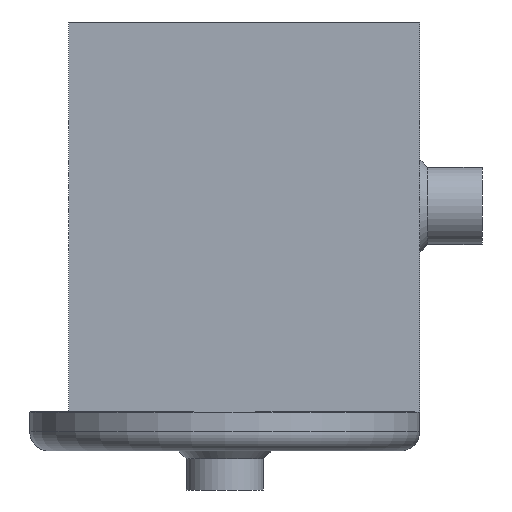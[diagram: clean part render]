
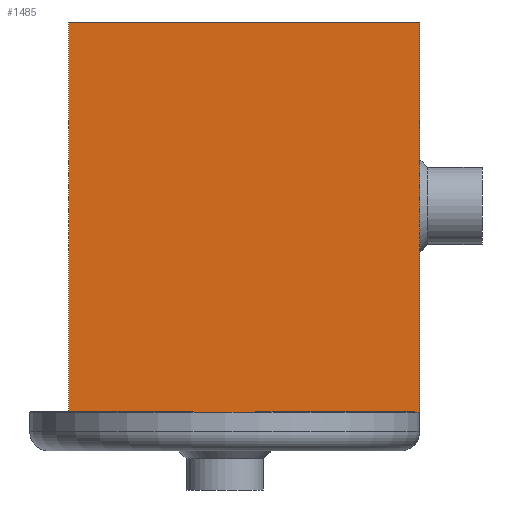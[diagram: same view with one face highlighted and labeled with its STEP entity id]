
A CAD part, front view. The second image highlights one B-rep face of the part: STEP entity #1485.
In plain terms, the highlighted planar face has unit normal (-0.002, -1, 0).
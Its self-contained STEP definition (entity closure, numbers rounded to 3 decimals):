
#83=PLANE('',#1657);
#167=FACE_OUTER_BOUND('',#271,.T.);
#271=EDGE_LOOP('',(#1307,#1308,#1309,#1310));
#300=LINE('',#2167,#423);
#325=LINE('',#2283,#448);
#410=LINE('',#2612,#533);
#411=LINE('',#2613,#534);
#423=VECTOR('',#1696,10.);
#448=VECTOR('',#1785,10.);
#533=VECTOR('',#2090,10.);
#534=VECTOR('',#2091,10.);
#624=VERTEX_POINT('',#2164);
#625=VERTEX_POINT('',#2166);
#655=VERTEX_POINT('',#2280);
#656=VERTEX_POINT('',#2282);
#764=EDGE_CURVE('',#625,#624,#300,.T.);
#809=EDGE_CURVE('',#656,#655,#325,.T.);
#949=EDGE_CURVE('',#656,#624,#410,.T.);
#950=EDGE_CURVE('',#625,#655,#411,.T.);
#1307=ORIENTED_EDGE('',*,*,#764,.T.);
#1308=ORIENTED_EDGE('',*,*,#949,.F.);
#1309=ORIENTED_EDGE('',*,*,#809,.T.);
#1310=ORIENTED_EDGE('',*,*,#950,.F.);
#1485=ADVANCED_FACE('',(#167),#83,.T.);
#1657=AXIS2_PLACEMENT_3D('',#2611,#2088,#2089);
#1696=DIRECTION('',(0.,0.,-1.));
#1785=DIRECTION('',(0.,0.,1.));
#2088=DIRECTION('center_axis',(-0.002,-1.,
0.));
#2089=DIRECTION('ref_axis',(1.,-0.002,0.));
#2090=DIRECTION('',(-1.,0.002,0.));
#2091=DIRECTION('',(1.,-0.002,0.));
#2164=CARTESIAN_POINT('',(-9.924,39.002,5.));
#2166=CARTESIAN_POINT('',(-9.924,39.002,55.));
#2167=CARTESIAN_POINT('',(-9.924,39.002,30.8));
#2280=CARTESIAN_POINT('',(35.076,38.896,55.));
#2282=CARTESIAN_POINT('',(35.076,38.896,5.));
#2283=CARTESIAN_POINT('',(35.076,38.896,0.));
#2611=CARTESIAN_POINT('Origin',(-14.924,39.014,0.));
#2612=CARTESIAN_POINT('',(-2.426,38.984,5.));
#2613=CARTESIAN_POINT('',(20.726,38.93,55.));
